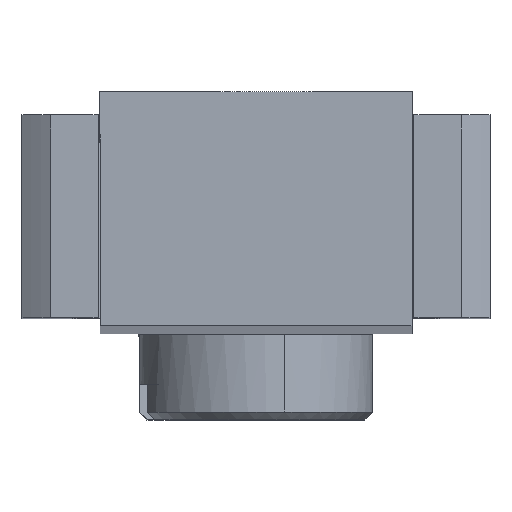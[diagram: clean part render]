
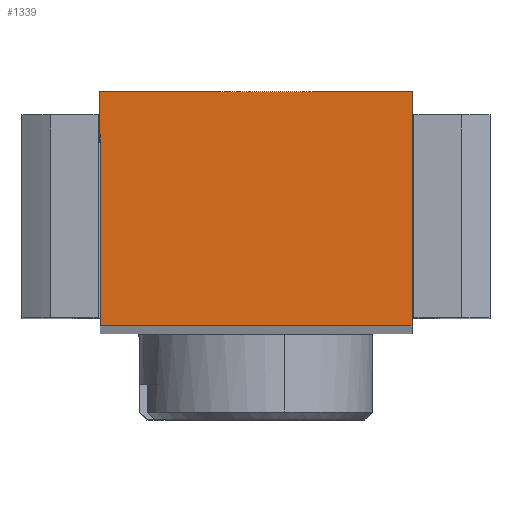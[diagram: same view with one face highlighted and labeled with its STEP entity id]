
A CAD part, top view. The second image highlights one B-rep face of the part: STEP entity #1339.
In plain terms, the highlighted planar face has unit normal (0, 0, 1).
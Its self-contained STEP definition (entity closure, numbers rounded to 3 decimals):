
#32 = VERTEX_POINT ( 'NONE', #1028 ) ;
#191 = FACE_OUTER_BOUND ( 'NONE', #629, .T. ) ;
#242 = DIRECTION ( 'NONE',  ( 1., 0., 0. ) ) ;
#244 = VERTEX_POINT ( 'NONE', #868 ) ;
#272 = VECTOR ( 'NONE', #1540, 1000. ) ;
#288 = ORIENTED_EDGE ( 'NONE', *, *, #610, .T. ) ;
#370 = CARTESIAN_POINT ( 'NONE',  ( -2., 1.47, 12.163 ) ) ;
#386 = CARTESIAN_POINT ( 'NONE',  ( 2., -1.53, 12.163 ) ) ;
#496 = EDGE_CURVE ( 'NONE', #1085, #639, #1204, .T. ) ;
#513 = DIRECTION ( 'NONE',  ( 0., 0., 1. ) ) ;
#547 = EDGE_CURVE ( 'NONE', #32, #1085, #1652, .T. ) ;
#580 = ORIENTED_EDGE ( 'NONE', *, *, #547, .T. ) ;
#591 = EDGE_CURVE ( 'NONE', #244, #32, #867, .T. ) ;
#610 = EDGE_CURVE ( 'NONE', #639, #244, #1279, .T. ) ;
#626 = ORIENTED_EDGE ( 'NONE', *, *, #496, .T. ) ;
#629 = EDGE_LOOP ( 'NONE', ( #288, #1666, #580, #626 ) ) ;
#639 = VERTEX_POINT ( 'NONE', #900 ) ;
#672 = CARTESIAN_POINT ( 'NONE',  ( 2., 1.47, 12.163 ) ) ;
#696 = AXIS2_PLACEMENT_3D ( 'NONE', #386, #513, #242 ) ;
#819 = PLANE ( 'NONE',  #696 ) ;
#867 = LINE ( 'NONE', #672, #1243 ) ;
#868 = CARTESIAN_POINT ( 'NONE',  ( 2., 1.47, 12.163 ) ) ;
#900 = CARTESIAN_POINT ( 'NONE',  ( 2., -1.53, 12.163 ) ) ;
#1028 = CARTESIAN_POINT ( 'NONE',  ( -2., 1.47, 12.163 ) ) ;
#1082 = DIRECTION ( 'NONE',  ( 0., 1., 0. ) ) ;
#1085 = VERTEX_POINT ( 'NONE', #1391 ) ;
#1204 = LINE ( 'NONE', #1639, #272 ) ;
#1214 = DIRECTION ( 'NONE',  ( -1., 0., 0. ) ) ;
#1243 = VECTOR ( 'NONE', #1214, 1000. ) ;
#1250 = CARTESIAN_POINT ( 'NONE',  ( 2., 1.47, 12.163 ) ) ;
#1279 = LINE ( 'NONE', #1250, #1315 ) ;
#1315 = VECTOR ( 'NONE', #1082, 1000. ) ;
#1339 = ADVANCED_FACE ( 'NONE', ( #191 ), #819, .T. ) ;
#1391 = CARTESIAN_POINT ( 'NONE',  ( -2., -1.53, 12.163 ) ) ;
#1423 = VECTOR ( 'NONE', #1459, 1000. ) ;
#1459 = DIRECTION ( 'NONE',  ( 0., -1., 0. ) ) ;
#1540 = DIRECTION ( 'NONE',  ( 1., 0., 0. ) ) ;
#1639 = CARTESIAN_POINT ( 'NONE',  ( -2., -1.53, 12.163 ) ) ;
#1652 = LINE ( 'NONE', #370, #1423 ) ;
#1666 = ORIENTED_EDGE ( 'NONE', *, *, #591, .T. ) ;
